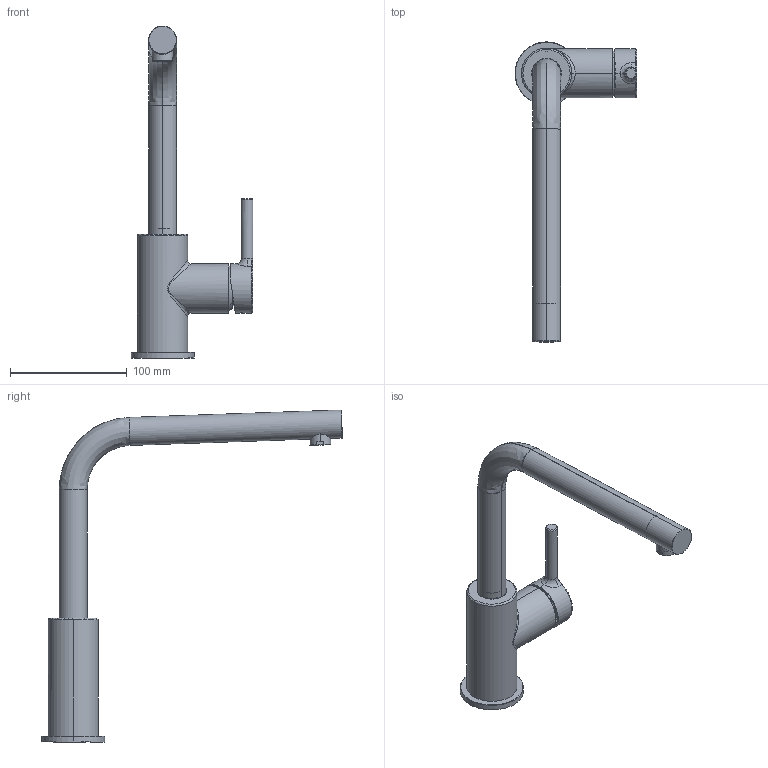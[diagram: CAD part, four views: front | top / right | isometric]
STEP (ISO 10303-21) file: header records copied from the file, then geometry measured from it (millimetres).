
FILE_DESCRIPTION(/* description */ (''),/* implementation_level */ '2;1');
FILE_NAME(/* name */ '3D001_Taps_Lina_L-Swivel',/* time_stamp */ '2024-01-31T10:27:16+01:00',/* author */ (''),/* organization */ (''),/* preprocessor_version */ 'ST-DEVELOPER v19.2',/* originating_system */ 'Rhino 8.3',/* authorisation */ '');
FILE_SCHEMA (('CONFIG_CONTROL_DESIGN'));
Length unit declared in the file: millimetre
Products named in the file (15): Document; LOGO_CALDO_FREDDO; SPL351210; STU502000_ASM; S_PRG_GE01722_0002_TUBO_AF0; S_PRG_GE01722_0002_RAC_AF0; SZA601890; SAE030860_ASM; S_AE_03016_CORPO_AF0; SAE031030_AF0; S_AE_03016_GUARN_AF0; SMM257540; SMN602580; SBU050510; SZA602020
Bounding box: 104.39 x 257.41 x 284.18 mm (x, y, z)
Volume: 124379.6 mm3; surface area: 122500.6 mm2
Topology: 20 solids, 26 shells, 795 faces, 1987 edges, 1237 vertices
Faces by surface type: plane 321, cylinder 251, bspline 223
Entity records: 38122 total; most frequent: CARTESIAN_POINT 20288, ORIENTED_EDGE 3926, DIRECTION 2146, EDGE_CURVE 1977, AXIS2_PLACEMENT_3D 1359, VERTEX_POINT 1237, B_SPLINE_CURVE_WITH_KNOTS 1236, EDGE_LOOP 860
